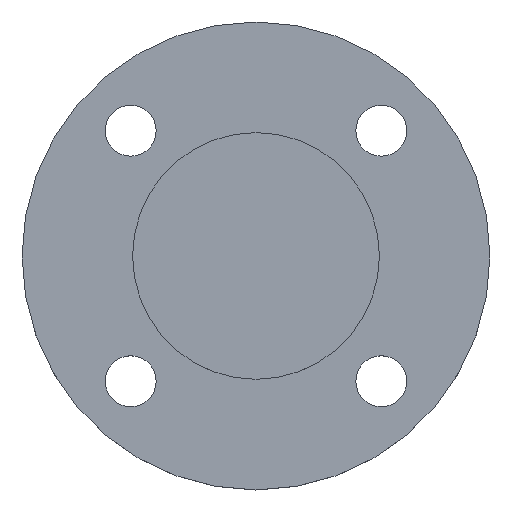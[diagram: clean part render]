
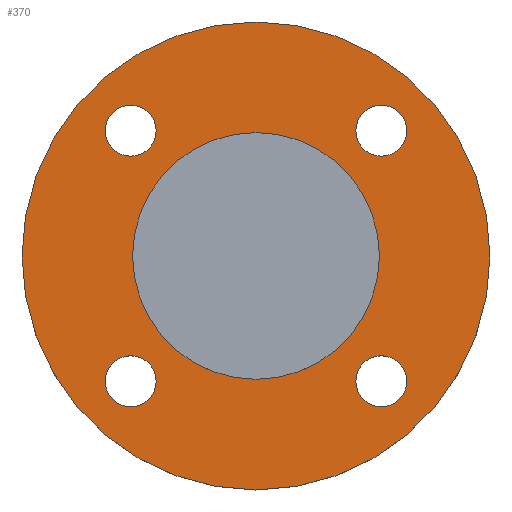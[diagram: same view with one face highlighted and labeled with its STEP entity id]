
A CAD part, top view. The second image highlights one B-rep face of the part: STEP entity #370.
In plain terms, the highlighted planar face has unit normal (0, 0, 1).
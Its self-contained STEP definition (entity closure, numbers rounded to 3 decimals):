
#2 = CARTESIAN_POINT ( 'NONE',  ( -44.194, 44.194, -4.5 ) ) ;
#4 = CARTESIAN_POINT ( 'NONE',  ( -53.194, -44.194, -4.5 ) ) ;
#5 = CIRCLE ( 'NONE', #7, 43.5 ) ;
#7 = AXIS2_PLACEMENT_3D ( 'NONE', #314, #313, #311 ) ;
#9 = CARTESIAN_POINT ( 'NONE',  ( 53.194, 44.194, -4.5 ) ) ;
#10 = CARTESIAN_POINT ( 'NONE',  ( 82.5, 0., -4.5 ) ) ;
#32 = EDGE_CURVE ( 'NONE', #332, #472, #5, .T. ) ;
#34 = CARTESIAN_POINT ( 'NONE',  ( 44.194, -44.194, -4.5 ) ) ;
#37 = DIRECTION ( 'NONE',  ( 1., 0., 0. ) ) ;
#39 = DIRECTION ( 'NONE',  ( 0., 0., -1. ) ) ;
#44 = DIRECTION ( 'NONE',  ( 0., 0., -1. ) ) ;
#50 = DIRECTION ( 'NONE',  ( 1., 0., 0. ) ) ;
#61 = CARTESIAN_POINT ( 'NONE',  ( -44.194, -44.194, -4.5 ) ) ;
#67 = DIRECTION ( 'NONE',  ( 1., 0., 0. ) ) ;
#68 = DIRECTION ( 'NONE',  ( 0., 0., -1. ) ) ;
#69 = CARTESIAN_POINT ( 'NONE',  ( -44.194, -44.194, -4.5 ) ) ;
#73 = DIRECTION ( 'NONE',  ( -1., 0., 0. ) ) ;
#74 = DIRECTION ( 'NONE',  ( 0., 0., -1. ) ) ;
#76 = CARTESIAN_POINT ( 'NONE',  ( 0., 0., -4.5 ) ) ;
#82 = CIRCLE ( 'NONE', #514, 43.5 ) ;
#86 = DIRECTION ( 'NONE',  ( 1., 0., 0. ) ) ;
#87 = DIRECTION ( 'NONE',  ( 0., 0., 1. ) ) ;
#88 = CARTESIAN_POINT ( 'NONE',  ( 43.5, 0., -4.5 ) ) ;
#90 = AXIS2_PLACEMENT_3D ( 'NONE', #288, #286, #285 ) ;
#91 = PLANE ( 'NONE',  #375 ) ;
#92 = FACE_OUTER_BOUND ( 'NONE', #395, .T. ) ;
#93 = FACE_BOUND ( 'NONE', #403, .T. ) ;
#94 = EDGE_CURVE ( 'NONE', #257, #470, #113, .T. ) ;
#95 = CIRCLE ( 'NONE', #90, 82.5 ) ;
#97 = FACE_BOUND ( 'NONE', #372, .T. ) ;
#99 = CIRCLE ( 'NONE', #427, 9. ) ;
#101 = FACE_BOUND ( 'NONE', #453, .T. ) ;
#102 = AXIS2_PLACEMENT_3D ( 'NONE', #292, #290, #289 ) ;
#103 = FACE_BOUND ( 'NONE', #354, .T. ) ;
#105 = FACE_BOUND ( 'NONE', #422, .T. ) ;
#113 = CIRCLE ( 'NONE', #102, 9. ) ;
#118 = DIRECTION ( 'NONE',  ( 1., 0., 0. ) ) ;
#119 = DIRECTION ( 'NONE',  ( 0., 0., -1. ) ) ;
#120 = CARTESIAN_POINT ( 'NONE',  ( 44.194, 44.194, -4.5 ) ) ;
#122 = EDGE_CURVE ( 'NONE', #248, #455, #95, .T. ) ;
#137 = EDGE_CURVE ( 'NONE', #342, #494, #99, .T. ) ;
#151 = DIRECTION ( 'NONE',  ( 1., 0., 0. ) ) ;
#153 = CARTESIAN_POINT ( 'NONE',  ( -53.194, 44.194, -4.5 ) ) ;
#154 = AXIS2_PLACEMENT_3D ( 'NONE', #169, #161, #160 ) ;
#157 = CARTESIAN_POINT ( 'NONE',  ( 43.5, 0., -4.5 ) ) ;
#160 = DIRECTION ( 'NONE',  ( 1., 0., 0. ) ) ;
#161 = DIRECTION ( 'NONE',  ( 0., 0., -1. ) ) ;
#162 = EDGE_CURVE ( 'NONE', #472, #332, #82, .T. ) ;
#167 = CARTESIAN_POINT ( 'NONE',  ( 35.194, -44.194, -4.5 ) ) ;
#169 = CARTESIAN_POINT ( 'NONE',  ( 44.194, 44.194, -4.5 ) ) ;
#177 = AXIS2_PLACEMENT_3D ( 'NONE', #69, #68, #67 ) ;
#180 = CIRCLE ( 'NONE', #245, 9. ) ;
#194 = CARTESIAN_POINT ( 'NONE',  ( -35.194, -44.194, -4.5 ) ) ;
#205 = CARTESIAN_POINT ( 'NONE',  ( -82.5, 0., -4.5 ) ) ;
#211 = CARTESIAN_POINT ( 'NONE',  ( -43.5, 0., -4.5 ) ) ;
#219 = CIRCLE ( 'NONE', #381, 9. ) ;
#245 = AXIS2_PLACEMENT_3D ( 'NONE', #120, #119, #118 ) ;
#248 = VERTEX_POINT ( 'NONE', #205 ) ;
#257 = VERTEX_POINT ( 'NONE', #167 ) ;
#262 = VERTEX_POINT ( 'NONE', #194 ) ;
#263 = AXIS2_PLACEMENT_3D ( 'NONE', #34, #44, #50 ) ;
#269 = DIRECTION ( 'NONE',  ( -1., 0., 0. ) ) ;
#273 = CARTESIAN_POINT ( 'NONE',  ( -35.194, 44.194, -4.5 ) ) ;
#275 = DIRECTION ( 'NONE',  ( 0., 0., -1. ) ) ;
#276 = CARTESIAN_POINT ( 'NONE',  ( 0., 0., -4.5 ) ) ;
#281 = DIRECTION ( 'NONE',  ( 1., 0., 0. ) ) ;
#282 = DIRECTION ( 'NONE',  ( 0., 0., -1. ) ) ;
#284 = CARTESIAN_POINT ( 'NONE',  ( -44.194, 44.194, -4.5 ) ) ;
#285 = DIRECTION ( 'NONE',  ( -1., 0., 0. ) ) ;
#286 = DIRECTION ( 'NONE',  ( 0., 0., -1. ) ) ;
#288 = CARTESIAN_POINT ( 'NONE',  ( 0., 0., -4.5 ) ) ;
#289 = DIRECTION ( 'NONE',  ( 1., 0., 0. ) ) ;
#290 = DIRECTION ( 'NONE',  ( 0., 0., -1. ) ) ;
#292 = CARTESIAN_POINT ( 'NONE',  ( 44.194, -44.194, -4.5 ) ) ;
#301 = EDGE_CURVE ( 'NONE', #456, #474, #390, .T. ) ;
#311 = DIRECTION ( 'NONE',  ( -1., 0., 0. ) ) ;
#313 = DIRECTION ( 'NONE',  ( 0., 0., -1. ) ) ;
#314 = CARTESIAN_POINT ( 'NONE',  ( 0., 0., -4.5 ) ) ;
#331 = DIRECTION ( 'NONE',  ( 0., 0., -1. ) ) ;
#332 = VERTEX_POINT ( 'NONE', #157 ) ;
#336 = ORIENTED_EDGE ( 'NONE', *, *, #513, .T. ) ;
#338 = ORIENTED_EDGE ( 'NONE', *, *, #506, .T. ) ;
#342 = VERTEX_POINT ( 'NONE', #153 ) ;
#343 = ORIENTED_EDGE ( 'NONE', *, *, #380, .T. ) ;
#345 = ORIENTED_EDGE ( 'NONE', *, *, #391, .T. ) ;
#350 = ORIENTED_EDGE ( 'NONE', *, *, #94, .T. ) ;
#354 = EDGE_LOOP ( 'NONE', ( #343, #345 ) ) ;
#359 = CIRCLE ( 'NONE', #177, 9. ) ;
#360 = CARTESIAN_POINT ( 'NONE',  ( 53.194, -44.194, -4.5 ) ) ;
#361 = CARTESIAN_POINT ( 'NONE',  ( 35.194, 44.194, -4.5 ) ) ;
#362 = EDGE_CURVE ( 'NONE', #474, #456, #180, .T. ) ;
#366 = ORIENTED_EDGE ( 'NONE', *, *, #137, .T. ) ;
#370 = ADVANCED_FACE ( 'NONE', ( #105, #103, #101, #97, #93, #92 ), #91, .T. ) ;
#371 = ORIENTED_EDGE ( 'NONE', *, *, #301, .T. ) ;
#372 = EDGE_LOOP ( 'NONE', ( #371, #439 ) ) ;
#375 = AXIS2_PLACEMENT_3D ( 'NONE', #88, #87, #86 ) ;
#378 = EDGE_CURVE ( 'NONE', #455, #248, #382, .T. ) ;
#380 = EDGE_CURVE ( 'NONE', #262, #458, #359, .T. ) ;
#381 = AXIS2_PLACEMENT_3D ( 'NONE', #2, #331, #151 ) ;
#382 = CIRCLE ( 'NONE', #516, 82.5 ) ;
#390 = CIRCLE ( 'NONE', #154, 9. ) ;
#391 = EDGE_CURVE ( 'NONE', #458, #262, #426, .T. ) ;
#395 = EDGE_LOOP ( 'NONE', ( #440, #442 ) ) ;
#403 = EDGE_LOOP ( 'NONE', ( #443, #438 ) ) ;
#422 = EDGE_LOOP ( 'NONE', ( #338, #350 ) ) ;
#426 = CIRCLE ( 'NONE', #515, 9. ) ;
#427 = AXIS2_PLACEMENT_3D ( 'NONE', #284, #282, #281 ) ;
#438 = ORIENTED_EDGE ( 'NONE', *, *, #32, .T. ) ;
#439 = ORIENTED_EDGE ( 'NONE', *, *, #362, .T. ) ;
#440 = ORIENTED_EDGE ( 'NONE', *, *, #378, .F. ) ;
#442 = ORIENTED_EDGE ( 'NONE', *, *, #122, .F. ) ;
#443 = ORIENTED_EDGE ( 'NONE', *, *, #162, .T. ) ;
#453 = EDGE_LOOP ( 'NONE', ( #336, #366 ) ) ;
#455 = VERTEX_POINT ( 'NONE', #10 ) ;
#456 = VERTEX_POINT ( 'NONE', #9 ) ;
#458 = VERTEX_POINT ( 'NONE', #4 ) ;
#470 = VERTEX_POINT ( 'NONE', #360 ) ;
#472 = VERTEX_POINT ( 'NONE', #211 ) ;
#474 = VERTEX_POINT ( 'NONE', #361 ) ;
#494 = VERTEX_POINT ( 'NONE', #273 ) ;
#506 = EDGE_CURVE ( 'NONE', #470, #257, #508, .T. ) ;
#508 = CIRCLE ( 'NONE', #263, 9. ) ;
#513 = EDGE_CURVE ( 'NONE', #494, #342, #219, .T. ) ;
#514 = AXIS2_PLACEMENT_3D ( 'NONE', #276, #275, #269 ) ;
#515 = AXIS2_PLACEMENT_3D ( 'NONE', #61, #39, #37 ) ;
#516 = AXIS2_PLACEMENT_3D ( 'NONE', #76, #74, #73 ) ;
